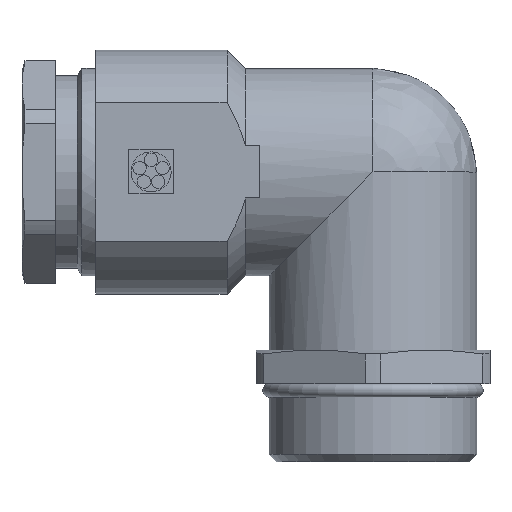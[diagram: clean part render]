
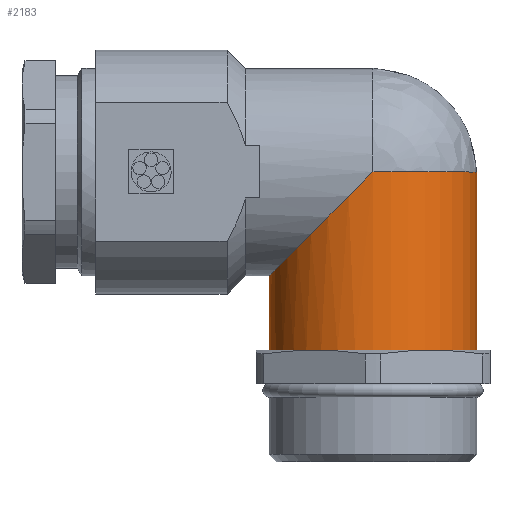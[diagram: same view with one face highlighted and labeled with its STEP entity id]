
A CAD part, top view. The second image highlights one B-rep face of the part: STEP entity #2183.
In plain terms, the highlighted cylindrical face has radius 9.3 mm (diameter 18.6 mm), a partial arc.
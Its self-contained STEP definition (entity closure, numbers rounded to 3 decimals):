
#2057=CARTESIAN_POINT('POINT138',(-9.3,-9.3,
   0.));
#2058=VERTEX_POINT('VERTEX138',#2057);
#2065=CARTESIAN_POINT('POINT139',(0.,0.,9.3));
#2066=VERTEX_POINT('VERTEX139',#2065);
#2067=CARTESIAN_POINT('POS193',(0.,0.,0.));
#2068=DIRECTION('DIR274',(0.707,-0.707,
   0.));
#2069=DIRECTION('DIR275',(0.707,0.707,
   0.));
#2070=AXIS2_PLACEMENT_3D('AXIS82',#2067,#2068,#2069);
#2071=ELLIPSE('ELLIPSE35',#2070,13.152,9.3);
#2072=EDGE_CURVE('EDGE214',#2066,#2058,#2071,.T.);
#2094=CARTESIAN_POINT('POINT141',(9.3,0.,
   0.));
#2095=VERTEX_POINT('VERTEX141',#2094);
#2096=CARTESIAN_POINT('POS196',(0.,0.,0.));
#2097=DIRECTION('DIR280',(0.,1.,
   0.));
#2098=DIRECTION('DIR281',(1.,0.,
   0.));
#2099=AXIS2_PLACEMENT_3D('AXIS85',#2096,#2097,#2098);
#2100=CIRCLE('ELLIPSE37',#2099,9.3);
#2101=EDGE_CURVE('EDGE217',#2066,#2095,#2100,.T.);
#2151=CARTESIAN_POINT('POINT144',(9.3,-16.,
   0.));
#2152=VERTEX_POINT('VERTEX144',#2151);
#2153=CARTESIAN_POINT('POS200',(9.3,-8.,
   0.));
#2154=DIRECTION('DIR288',(0.,1.,0.));
#2155=VECTOR('VEC112',#2154,1.);
#2156=LINE('STRAIGHT112',#2153,#2155);
#2157=EDGE_CURVE('EDGE222',#2152,#2095,#2156,.T.);
#2158=ORIENTED_EDGE('COEDGE437',*,*,#2157,.T.);
#2159=ORIENTED_EDGE('COEDGE438',*,*,#2101,.F.);
#2160=ORIENTED_EDGE('COEDGE439',*,*,#2072,.T.);
#2161=CARTESIAN_POINT('POINT145',(-9.3,-16.,
   0.));
#2162=VERTEX_POINT('VERTEX145',#2161);
#2163=CARTESIAN_POINT('POS201',(-9.3,-8.,
   0.));
#2164=DIRECTION('DIR289',(0.,-1.,0.));
#2165=VECTOR('VEC113',#2164,1.);
#2166=LINE('STRAIGHT113',#2163,#2165);
#2167=EDGE_CURVE('EDGE223',#2058,#2162,#2166,.T.);
#2168=ORIENTED_EDGE('COEDGE440',*,*,#2167,.T.);
#2169=CARTESIAN_POINT('POS202',(0.,-16.,0.));
#2170=DIRECTION('DIR290',(0.,1.,
   0.));
#2171=DIRECTION('DIR291',(1.,0.,
   0.));
#2172=AXIS2_PLACEMENT_3D('AXIS89',#2169,#2170,#2171);
#2173=CIRCLE('ELLIPSE39',#2172,9.3);
#2174=EDGE_CURVE('EDGE224',#2162,#2152,#2173,.T.);
#2175=ORIENTED_EDGE('COEDGE441',*,*,#2174,.T.);
#2176=EDGE_LOOP('NONE',(#2158,#2159,#2160,#2168,#2175));
#2177=FACE_BOUND('LOOP1',#2176,.T.);
#2178=CARTESIAN_POINT('POS203',(0.,-8.,0.));
#2179=DIRECTION('DIR292',(0.,1.,
   0.));
#2180=DIRECTION('DIR293',(1.,0.,
   0.));
#2181=AXIS2_PLACEMENT_3D('AXIS90',#2178,#2179,#2180);
#2182=CYLINDRICAL_SURFACE('CONE_SURF20',#2181,9.3);
#2183=ADVANCED_FACE('FACE84',(#2177),#2182,.T.);
